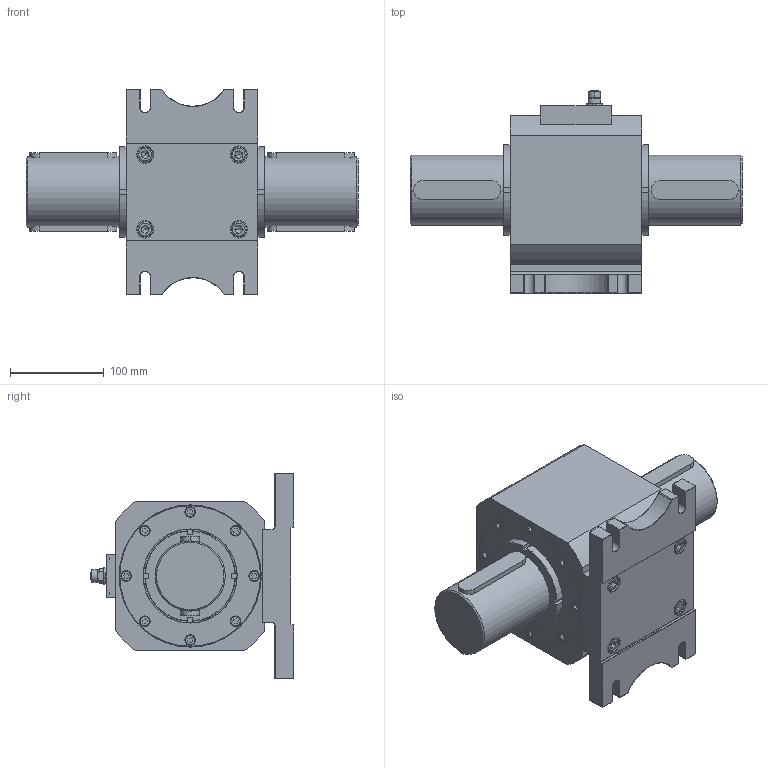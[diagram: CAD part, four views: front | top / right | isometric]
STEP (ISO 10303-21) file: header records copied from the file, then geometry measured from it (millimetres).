
FILE_DESCRIPTION (( 'STEP AP203' ), '1' );
FILE_NAME ('FYTH-3000NM-眒瞄勤.STEP', '2024-07-17T09:01:01', ( '' ), ( '' ), 'SwSTEP 2.0', 'SolidWorks 2019', '' );
FILE_SCHEMA (( 'CONFIG_CONTROL_DESIGN' ));
Products named in the file (1): FYTH-3000NM-眒瞄勤
Bounding box: 355 x 217.1 x 220 mm (x, y, z)
Volume: 5121389 mm3; surface area: 387782.2 mm2
Topology: 9 solids, 9 shells, 946 faces, 2307 edges, 1441 vertices
Faces by surface type: plane 479, cylinder 321, cone 113, bspline 20, torus 12, sphere 1
Entity records: 41191 total; most frequent: CARTESIAN_POINT 19625, ORIENTED_EDGE 4576, DIRECTION 4331, EDGE_CURVE 2288, AXIS2_PLACEMENT_3D 1499, VERTEX_POINT 1439, LINE 1333, VECTOR 1333
